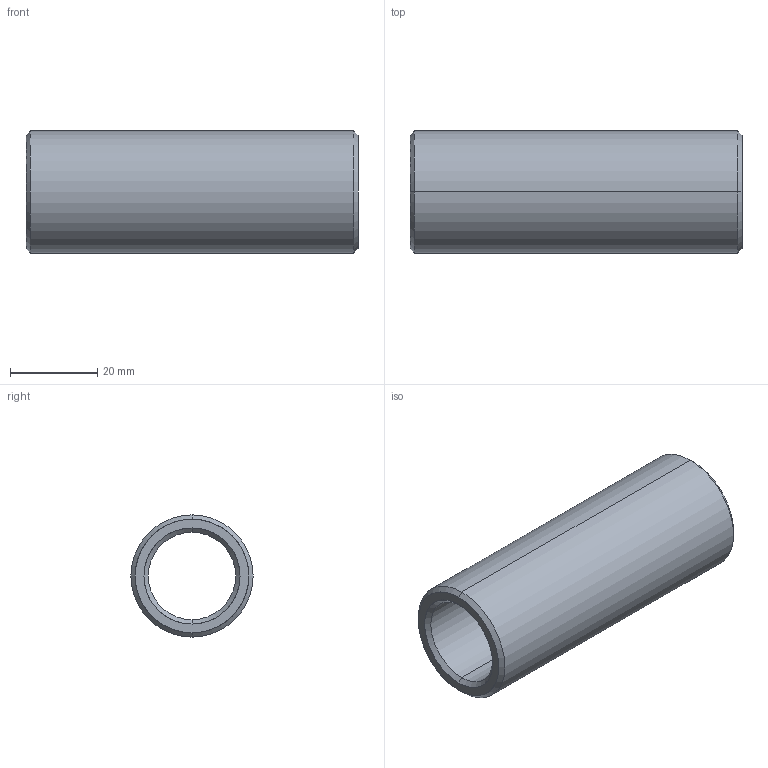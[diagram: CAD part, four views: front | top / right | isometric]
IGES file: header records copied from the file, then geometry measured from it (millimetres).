
Start section: START RECORD GO HERE.
Global section: file name: 352-20X76.igs; native system: DASSAULT SYSTEMES CATIA V5 R20 - www.3ds.com; preprocessor: CATIA Version 5 Release 20 ; author: Utente; organization: NB04-ASUS; date: 20210412.174328; units: millimetre
Bounding box: 76 x 28 x 28 mm (x, y, z)
Surface area: 11896 mm2 (no closed solid volume)
Topology: 0 solids, 0 shells, 14 faces, 88 edges, 88 vertices
Faces by surface type: revolution 12, plane 2
